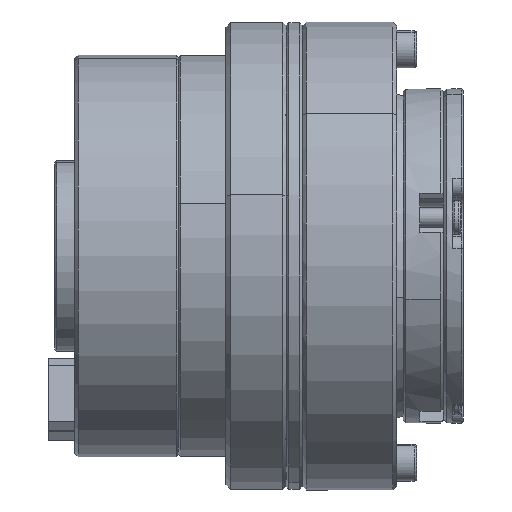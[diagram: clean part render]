
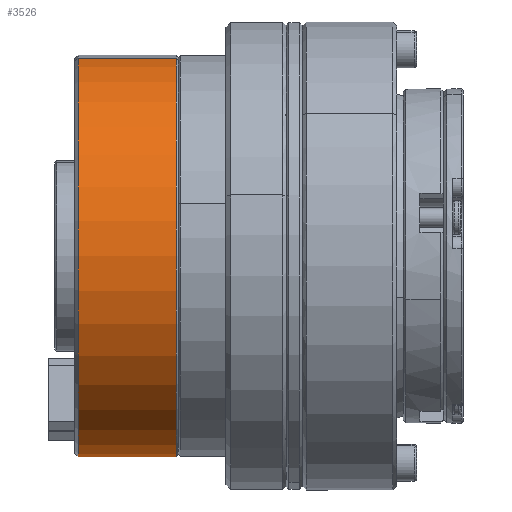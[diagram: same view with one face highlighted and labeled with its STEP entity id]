
A CAD part, top view. The second image highlights one B-rep face of the part: STEP entity #3526.
In plain terms, the highlighted cylindrical face has radius 30 mm (diameter 60 mm), a partial arc.
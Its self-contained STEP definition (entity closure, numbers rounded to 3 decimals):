
#431 = DIRECTION ( 'NONE',  ( -1., 0., 0. ) ) ;
#1156 = VERTEX_POINT ( 'NONE', #1441 ) ;
#1302 = CIRCLE ( 'NONE', #27094, 30. ) ;
#1441 = CARTESIAN_POINT ( 'NONE',  ( -47.6, 29.544, 5.209 ) ) ;
#1502 = LINE ( 'NONE', #20096, #5454 ) ;
#1530 = DIRECTION ( 'NONE',  ( 0., -0.985, -0.174 ) ) ;
#1927 = AXIS2_PLACEMENT_3D ( 'NONE', #17683, #17831, #1530 ) ;
#3278 = DIRECTION ( 'NONE',  ( 1., 0., 0. ) ) ;
#3526 = ADVANCED_FACE ( 'NONE', ( #11465 ), #26087, .T. ) ;
#3854 = EDGE_CURVE ( 'NONE', #9904, #26037, #28689, .T. ) ;
#3928 = CARTESIAN_POINT ( 'NONE',  ( -32.9, 29.544, 5.209 ) ) ;
#5454 = VECTOR ( 'NONE', #17796, 1000. ) ;
#9350 = DIRECTION ( 'NONE',  ( 0., 0.985, 0.174 ) ) ;
#9904 = VERTEX_POINT ( 'NONE', #27993 ) ;
#11170 = AXIS2_PLACEMENT_3D ( 'NONE', #16337, #30040, #9350 ) ;
#11465 = FACE_OUTER_BOUND ( 'NONE', #13526, .T. ) ;
#11947 = CARTESIAN_POINT ( 'NONE',  ( -47.6, -29.544, -5.209 ) ) ;
#12010 = CARTESIAN_POINT ( 'NONE',  ( -46.6, -29.544, -5.209 ) ) ;
#12232 = ORIENTED_EDGE ( 'NONE', *, *, #22326, .T. ) ;
#13526 = EDGE_LOOP ( 'NONE', ( #29729, #19500, #12232, #19076 ) ) ;
#15620 = EDGE_CURVE ( 'NONE', #1156, #16794, #1302, .T. ) ;
#16337 = CARTESIAN_POINT ( 'NONE',  ( -46.6, 0., 0. ) ) ;
#16794 = VERTEX_POINT ( 'NONE', #11947 ) ;
#17683 = CARTESIAN_POINT ( 'NONE',  ( -32.9, 0., 0. ) ) ;
#17796 = DIRECTION ( 'NONE',  ( -1., 0., 0. ) ) ;
#17831 = DIRECTION ( 'NONE',  ( -1., 0., 0. ) ) ;
#19076 = ORIENTED_EDGE ( 'NONE', *, *, #15620, .T. ) ;
#19500 = ORIENTED_EDGE ( 'NONE', *, *, #3854, .T. ) ;
#20096 = CARTESIAN_POINT ( 'NONE',  ( -46.6, 29.544, 5.209 ) ) ;
#21155 = LINE ( 'NONE', #12010, #22031 ) ;
#22031 = VECTOR ( 'NONE', #431, 1000. ) ;
#22326 = EDGE_CURVE ( 'NONE', #26037, #1156, #1502, .T. ) ;
#23601 = EDGE_CURVE ( 'NONE', #9904, #16794, #21155, .T. ) ;
#24142 = DIRECTION ( 'NONE',  ( 0., -0.985, -0.174 ) ) ;
#26037 = VERTEX_POINT ( 'NONE', #3928 ) ;
#26087 = CYLINDRICAL_SURFACE ( 'NONE', #11170, 30. ) ;
#27094 = AXIS2_PLACEMENT_3D ( 'NONE', #28432, #3278, #24142 ) ;
#27993 = CARTESIAN_POINT ( 'NONE',  ( -32.9, -29.544, -5.209 ) ) ;
#28432 = CARTESIAN_POINT ( 'NONE',  ( -47.6, 0., 0. ) ) ;
#28689 = CIRCLE ( 'NONE', #1927, 30. ) ;
#29729 = ORIENTED_EDGE ( 'NONE', *, *, #23601, .F. ) ;
#30040 = DIRECTION ( 'NONE',  ( -1., 0., 0. ) ) ;
